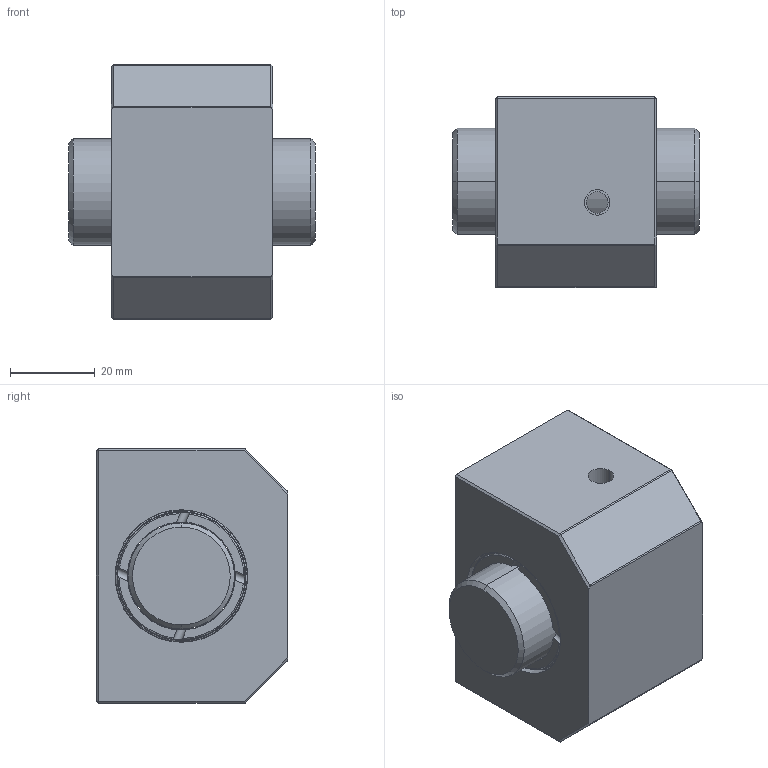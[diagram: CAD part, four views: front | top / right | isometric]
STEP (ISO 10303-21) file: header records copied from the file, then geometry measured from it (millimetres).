
FILE_DESCRIPTION (( 'STEP AP203' ), '1' );
FILE_NAME ('BNTL02505T3-C.STEP', '2020-06-18T01:40:23', ( '' ), ( '' ), 'SwSTEP 2.0', 'SolidWorks 2013', '' );
FILE_SCHEMA (( 'CONFIG_CONTROL_DESIGN' ));
Length unit declared in the file: millimetre
Products named in the file (1): BNTL02505T3-C
Bounding box: 58 x 45 x 60 mm (x, y, z)
Volume: 104054.1 mm3; surface area: 23884.7 mm2
Topology: 2 solids, 2 shells, 123 faces, 304 edges, 188 vertices
Faces by surface type: cylinder 50, plane 41, torus 20, cone 12
Entity records: 4333 total; most frequent: CARTESIAN_POINT 1406, DIRECTION 604, ORIENTED_EDGE 592, EDGE_CURVE 296, AXIS2_PLACEMENT_3D 246, VERTEX_POINT 188, EDGE_LOOP 138, ADVANCED_FACE 123
